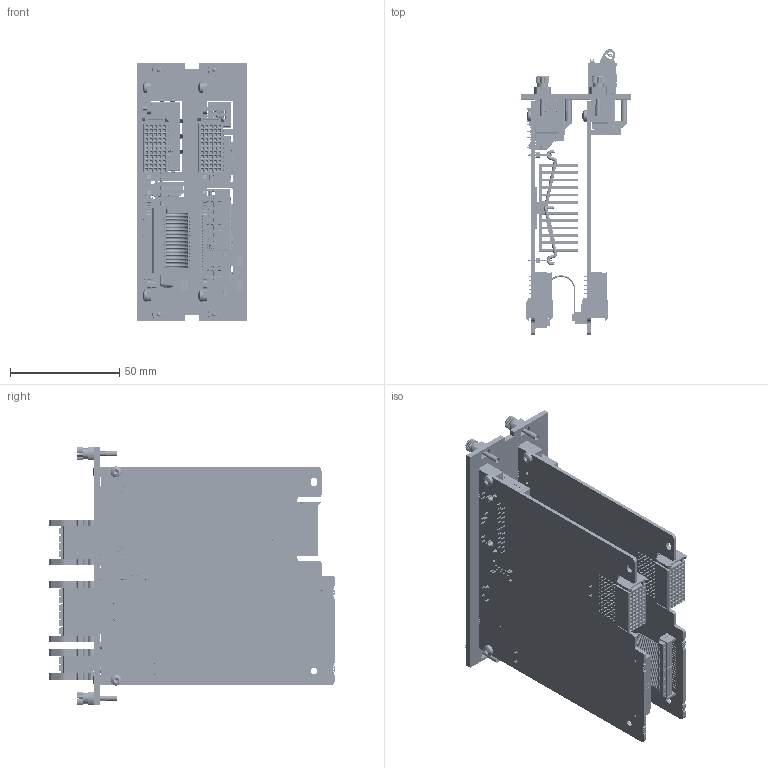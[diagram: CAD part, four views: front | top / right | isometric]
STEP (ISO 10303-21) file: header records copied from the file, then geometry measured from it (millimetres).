
FILE_DESCRIPTION(/* description */ (''),/* implementation_level */ '2;1');
FILE_NAME(/* name */ 'PCM6.1_3D CAD_20250318.stp',/* time_stamp */ '2025-03-18T10:10:28+01:00',/* author */ ('DSP'),/* organization */ (''),/* preprocessor_version */ 'ST-DEVELOPER v19.2',/* originating_system */ 'Autodesk Inventor 2023',/* authorisation */ '');
FILE_SCHEMA (('AUTOMOTIVE_DESIGN { 1 0 10303 214 3 1 1 }'));
Products named in the file (1): PCM6.1_3D CAD_SMPL_20250318
Bounding box: 50.46 x 130.44 x 117.85 mm (x, y, z)
Volume: 90313.9 mm3; surface area: 123507.8 mm2
Topology: 23 solids, 25 shells, 31049 faces, 91498 edges, 59643 vertices
Faces by surface type: plane 23117, cylinder 6573, bspline 618, cone 363, torus 317, sphere 61
Full cylindrical faces by diameter (mm): 0.6 x14, 0.7 x141, 0.89 x20, 0.97 x4, 1 x12, 1.02 x8, 1.19 x4, 1.2 x13, 1.3 x2, 1.4 x24, 1.422 x1, 1.5 x12, 1.57 x4, 1.59 x4, 1.63 x2, 2 x5, 2.15 x6, 2.3 x8, 2.5 x8, 2.9 x4, 2.997 x4, 3 x19, 3.05 x2, 3.2 x4, 3.25 x2, 3.5 x1, 3.7 x1, 4.7 x3, 5 x8
Entity records: 1109616 total; most frequent: CARTESIAN_POINT 238639, ORIENTED_EDGE 182796, DIRECTION 166857, EDGE_CURVE 91398, LINE 71629, VECTOR 71629, VERTEX_POINT 59643, AXIS2_PLACEMENT_3D 47614
